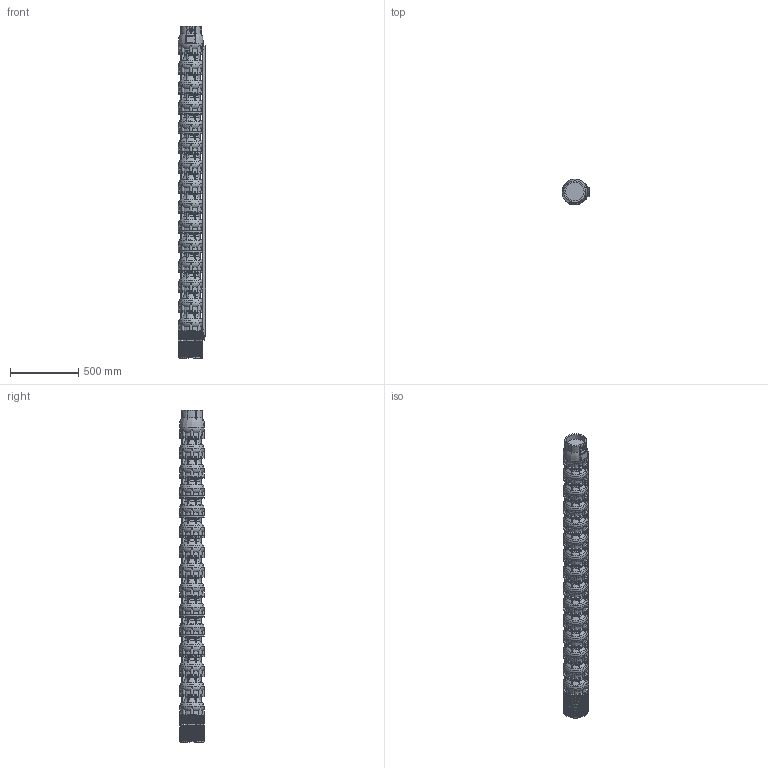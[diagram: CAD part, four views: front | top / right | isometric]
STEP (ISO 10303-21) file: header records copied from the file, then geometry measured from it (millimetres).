
FILE_DESCRIPTION(/* description */ ('Unknown'),/* implementation_level */ '2;1');
FILE_NAME(/* name */ 'VSI134-14_WR_M8-50_DLE',/* time_stamp */ '2023-09-14T14:34:50+02:00',/* author */ ('Unknown'),/* organization */ ('Unknown'),/* preprocessor_version */ 'ST-DEVELOPER v18.102',/* originating_system */ 'Solid Edge',/* authorisation */ 'Unknown');
FILE_SCHEMA (('AUTOMOTIVE_DESIGN {1 0 10303 214 3 1 1}'));
Products named in the file (11): VSI134-14_WR_M8-50_DLE; VSI134_testata; VSI134_diffusore; VSI134_supporto_8×8; VSI134_filtro_A; VSI134_filtro_B; VSI134_terminale_top_copricavo_basso; VSI134_terminale_bottom_copricavo_basso; LOW 134-14; M5X8_UNI7687; VSI134_giunto_8×8
Assembly tree (32 placements, depth 2):
  VSI134-14_WR_M8-50_DLE
    VSI134_testata
    VSI134_diffusore  x14
    VSI134_supporto_8×8
    VSI134_filtro_A
    VSI134_filtro_B
    VSI134_terminale_top_copricavo_basso
    VSI134_terminale_bottom_copricavo_basso
    LOW 134-14
    M5X8_UNI7687  x10
    VSI134_giunto_8×8
Bounding box: 201.57 x 183.52 x 2427 mm (x, y, z)
Volume: 44609092.8 mm3; surface area: 3245307.3 mm2
Topology: 71 solids, 73 shells, 4805 faces, 13577 edges, 9066 vertices
Faces by surface type: plane 3426, torus 656, cylinder 615, cone 65, bspline 31, sphere 12
Full cylindrical faces by diameter (mm): 2.4 x2, 3 x2, 4.2 x16, 5 x10, 5.5 x8, 26 x1, 44 x1, 69 x1, 74 x1, 98 x1, 135.472 x1, 157 x1, 182 x15
Entity records: 85569 total; most frequent: CARTESIAN_POINT 18365, ORIENTED_EDGE 14056, DIRECTION 13494, EDGE_CURVE 7028, VERTEX_POINT 4730, AXIS2_PLACEMENT_3D 4598, LINE 4298, VECTOR 4298
